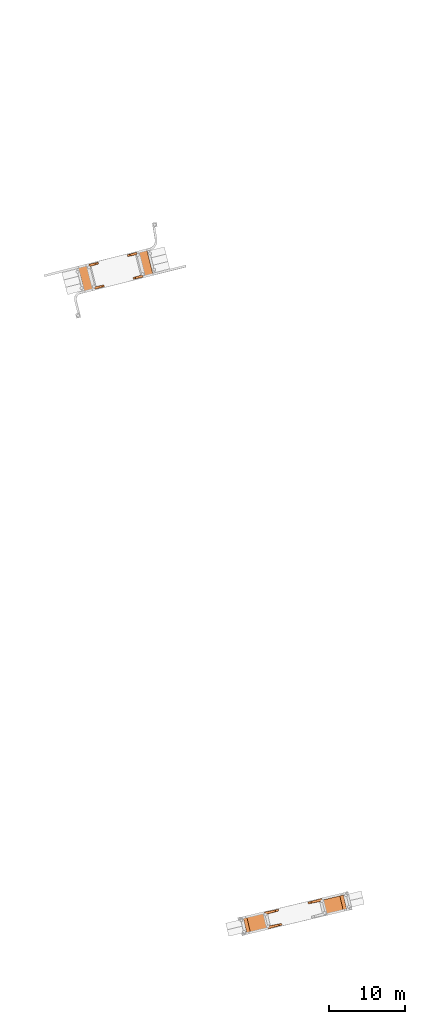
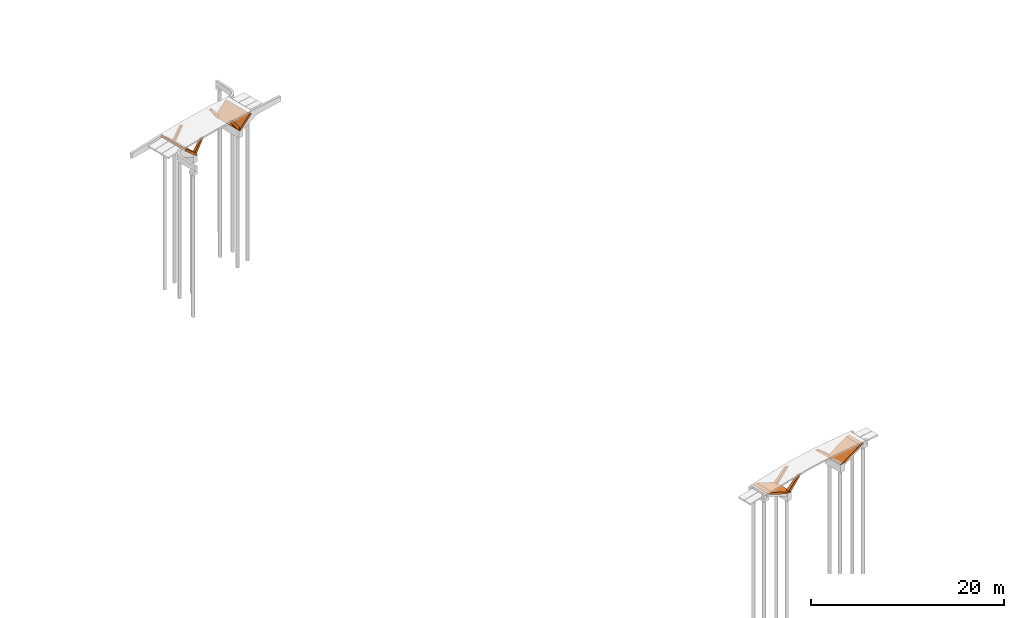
# One storey, part 10 of 15: 11 proxies.
"""IFC2X3 building model written with IfcOpenShell, lengths in millimetres."""

from ifc_helpers import new_model, entity, si_unit, converted_unit, derived_unit, direction, frame, frame_2d, origin, place, context, subcontext, project, spatial, polyline, rectangle, outline, extrude, faceted_brep, source, transform, mapped, material, type_object, type_shapes, element, save


model = new_model("IFC2X3")

# Units and contexts
model_context = context("Model", 3, precision=0.01, world=origin(), true_north=direction((6.12303176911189e-17, 1.0)))
body_context = subcontext(model_context, "Body", "Model", "MODEL_VIEW")
ifc_project = project(units=[si_unit("LENGTHUNIT", "METRE", prefix="MILLI"), si_unit("AREAUNIT", "SQUARE_METRE"), si_unit("VOLUMEUNIT", "CUBIC_METRE"), converted_unit("PLANEANGLEUNIT", "DEGREE", entity("IfcRatioMeasure", 0.0174532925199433), si_unit("PLANEANGLEUNIT", "RADIAN"), dimensions=[0, 0, 0, 0, 0, 0, 0]), si_unit("MASSUNIT", "GRAM", prefix="KILO"), derived_unit("MASSDENSITYUNIT", [(si_unit("MASSUNIT", "GRAM", prefix="KILO"), 1), (si_unit("LENGTHUNIT", "METRE"), -3)]), si_unit("TIMEUNIT", "SECOND"), si_unit("FREQUENCYUNIT", "HERTZ"), si_unit("THERMODYNAMICTEMPERATUREUNIT", "DEGREE_CELSIUS"), derived_unit("THERMALTRANSMITTANCEUNIT", [(si_unit("MASSUNIT", "GRAM", prefix="KILO"), 1), (si_unit("THERMODYNAMICTEMPERATUREUNIT", "KELVIN"), -1), (si_unit("TIMEUNIT", "SECOND"), -3)]), derived_unit("VOLUMETRICFLOWRATEUNIT", [(si_unit("LENGTHUNIT", "METRE"), 3), (si_unit("TIMEUNIT", "SECOND"), -1)]), si_unit("ELECTRICCURRENTUNIT", "AMPERE"), si_unit("ELECTRICVOLTAGEUNIT", "VOLT"), si_unit("POWERUNIT", "WATT"), si_unit("FORCEUNIT", "NEWTON", prefix="KILO"), si_unit("ILLUMINANCEUNIT", "LUX"), si_unit("LUMINOUSFLUXUNIT", "LUMEN"), si_unit("LUMINOUSINTENSITYUNIT", "CANDELA"), derived_unit("USERDEFINED", [(si_unit("MASSUNIT", "GRAM", prefix="KILO"), -1), (si_unit("LENGTHUNIT", "METRE"), -2), (si_unit("TIMEUNIT", "SECOND"), 3), (si_unit("LUMINOUSFLUXUNIT", "LUMEN"), 1)]), derived_unit("LINEARVELOCITYUNIT", [(si_unit("LENGTHUNIT", "METRE"), 1), (si_unit("TIMEUNIT", "SECOND"), -1)]), si_unit("PRESSUREUNIT", "PASCAL"), derived_unit("USERDEFINED", [(si_unit("LENGTHUNIT", "METRE"), -2), (si_unit("MASSUNIT", "GRAM", prefix="KILO"), 1), (si_unit("TIMEUNIT", "SECOND"), -2)])], contexts=[model_context])

# Site, building, storey
site_placement = place(None, origin())
site = spatial("IfcSite", under=ifc_project, at=site_placement, Name="Bruggen Achterburggracht Machinesloot", CompositionType="ELEMENT")
building_placement = place(site_placement, origin())
building = spatial("IfcBuilding", under=site, at=building_placement, Name="Bruggen Achterburggracht Machinesloot", CompositionType="ELEMENT")
storey_placement = place(building_placement, origin())
storey = spatial("IfcBuildingStorey", under=building, at=storey_placement, Name="00 begane grond", CompositionType="ELEMENT", Elevation=2.70716782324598e-13)

# Proxies
ifc_material = material(Name="00_PBT_MAT_beton t.p.g.")
building_element_proxy_type_1 = type_object("IfcBuildingElementProxyType", Name="kolom brug 3 .2", PredefinedType="NOTDEFINED", material=ifc_material)
shared_shape_1 = source(origin(), body_context, "Body", "Brep", [
    faceted_brep([(378.976737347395, 335.652016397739, 1440.50025541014), (190.303856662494, 286.745148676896, 1449.46661222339), (248.304842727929, 42.8932685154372, 1449.46661222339), (438.792346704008, 84.1709676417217, 1440.50025541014), (1.59527223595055, 237.843009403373, 1457.66925883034), (57.7875874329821, 1.59527223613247, 1457.66925883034), (1885.67997704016, 375.725360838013, 158.233292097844), (1538.98795205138, 297.439134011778, 0.0), (1457.37329578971, 640.569289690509, 0.0), (1802.1853051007, 726.759612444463, 158.233292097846)], [[[0, 1, 2, 3]], [[2, 1, 4, 5]], [[6, 7, 8, 9]], [[8, 4, 1, 0, 9]], [[6, 3, 2, 5, 7]], [[7, 5, 4, 8]], [[9, 0, 3, 6]]]),
])
type_shapes(building_element_proxy_type_1, [shared_shape_1])
proxy_1_placement = place(storey_placement, frame((-27586.3317633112, -44523.719479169, -1347.69055858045)))
element("IfcBuildingElementProxy", 1, at=proxy_1_placement, inside=storey, type_object=building_element_proxy_type_1, material=ifc_material, Name="kolom brug 3 .1:kolom brug 3 .2", ObjectType="kolom brug 3 .1:kolom brug 3 .2", context=body_context, shape_type="MappedRepresentation", body=[
    mapped(shared_shape_1, transform((0.0, 0.0, 0.0), scale=1.0)),
])
building_element_proxy_type_2 = type_object("IfcBuildingElementProxyType", Name="wand brug 3", PredefinedType="NOTDEFINED", material=ifc_material)
shared_shape_2 = source(origin(), body_context, "Body", "Brep", [
    faceted_brep([(3622.53916239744, 747.196671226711, 1227.1185303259), (3644.05681972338, 752.314718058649, 1177.44078765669), (3158.10671274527, 2795.38079830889, 1177.4407876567), (3136.58905541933, 2790.26275147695, 1227.1185303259), (487.82861127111, 1.5952722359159, 6.65309988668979), (3154.64024643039, 635.905347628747, 1227.11853032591), (2668.69134127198, 2678.96637510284, 1227.1185303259), (1.5952722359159, 2044.55218271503, 6.51917217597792), (244.56570284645, 1023.03857842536, 6.51917217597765), (1071.2651666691, 140.367610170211, 0.00356979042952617), (585.315177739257, 2183.39854434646, 0.0), (487.82861127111, 1.5952722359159, 6.51917217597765), (828.050363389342, 82.5181549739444, 6.51917217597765), (828.050363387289, 82.5181549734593, 66.5191721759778), (1071.26516666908, 140.367610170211, 66.5191721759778), (828.050235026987, 82.5186946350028, 6.51917217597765), (812.557750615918, 147.652197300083, 6.51917217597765), (727.84204633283, 503.813959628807, 6.51917217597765), (342.100991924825, 2125.54649320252, 6.51917217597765), (342.100925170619, 2125.54677385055, 66.5191721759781), (728.087680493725, 502.781264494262, 66.5191721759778), (812.312116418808, 148.684892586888, 66.5191721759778), (828.050235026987, 82.5186946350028, 66.5191721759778), (585.315103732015, 2183.39885548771, 66.5191721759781), (1071.26481743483, 140.369078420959, 66.5191721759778)], [[[0, 1, 2, 3]], [[4, 5, 6, 7, 8]], [[1, 9, 10, 2]], [[1, 0, 5, 11, 12, 13, 14, 9]], [[5, 0, 3, 6]], [[13, 15, 16, 17, 18, 19, 20, 21]], [[12, 4, 8, 7, 18, 17, 16]], [[14, 22, 21, 20, 19, 23]], [[9, 24, 23, 10]], [[3, 2, 10, 23, 19, 18, 7, 6]]]),
])
type_shapes(building_element_proxy_type_2, [shared_shape_2])
proxy_2_placement = place(storey_placement, frame((-26083.2280179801, -46149.0888771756, -1356.51917217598)))
element("IfcBuildingElementProxy", 2, at=proxy_2_placement, inside=storey, type_object=building_element_proxy_type_2, material=ifc_material, Name="wand brug 3:wand brug 3", ObjectType="wand brug 3:wand brug 3", context=body_context, shape_type="MappedRepresentation", body=[
    mapped(shared_shape_2, transform((0.0, 0.0, 0.0), scale=1.0)),
])
building_element_proxy_type_3 = type_object("IfcBuildingElementProxyType", Name="kolom brug 3 .2", PredefinedType="NOTDEFINED", material=ifc_material)
shared_shape_3 = source(origin(), body_context, "Body", "Brep", [
    faceted_brep([(0.0, 351.034270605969, 158.233300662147), (1446.88762460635, 642.588662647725, 1440.5002588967), (1637.37514327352, 683.866364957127, 1449.46661643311), (1827.89241326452, 725.164364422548, 1457.66926364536), (346.692043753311, 429.320501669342, 0.0), (83.4946764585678, 0.0, 158.233300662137), (1506.70323857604, 391.107594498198, 1440.50025889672), (428.306704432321, 86.1903274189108, 0.0), (1884.08473279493, 488.916609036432, 1457.66926364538), (1695.37613381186, 440.014465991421, 1449.46661643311)], [[[0, 1, 2, 3, 4]], [[5, 6, 1, 0]], [[7, 8, 9, 6, 5]], [[4, 3, 8, 7]], [[3, 2, 9, 8]], [[9, 2, 1, 6]], [[5, 0, 4, 7]]]),
])
type_shapes(building_element_proxy_type_3, [shared_shape_3])
proxy_3_placement = place(storey_placement, frame((-33295.7481023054, -45934.6537257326, -1347.69056281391)))
element("IfcBuildingElementProxy", 3, at=proxy_3_placement, inside=storey, type_object=building_element_proxy_type_3, material=ifc_material, Name="kolom brug 3 .4:kolom brug 3 .2", ObjectType="kolom brug 3 .4:kolom brug 3 .2", context=body_context, shape_type="MappedRepresentation", body=[
    mapped(shared_shape_3, transform((0.0, 0.0, 0.0), scale=1.0)),
])
building_element_proxy_type_4 = type_object("IfcBuildingElementProxyType", Name="kolom brug 3 .2", PredefinedType="NOTDEFINED", material=ifc_material)
shared_shape_4 = source(origin(), body_context, "Body", "Brep", [
    faceted_brep([(0.0, 351.03377433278, 158.233076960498), (1446.90404157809, 642.591474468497, 1440.51458431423), (1637.39014873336, 683.868874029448, 1449.48070310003), (1827.90600612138, 725.166570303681, 1457.68312290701), (346.691553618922, 429.319894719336, 0.0), (83.4945584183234, 0.0, 158.233076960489), (1506.71926883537, 391.112032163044, 1440.51458431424), (428.306098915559, 86.1902055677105, 0.0), (1884.09796855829, 488.920316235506, 1457.68312290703), (1695.39076740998, 440.018538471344, 1449.48070310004)], [[[0, 1, 2, 3, 4]], [[5, 6, 1, 0]], [[7, 8, 9, 6, 5]], [[4, 3, 8, 7]], [[8, 3, 2, 9]], [[2, 1, 6, 9]], [[5, 0, 4, 7]]]),
])
type_shapes(building_element_proxy_type_4, [shared_shape_4])
proxy_4_placement = place(storey_placement, frame((-32856.0650691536, -47783.0795329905, -1347.70274814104)))
element("IfcBuildingElementProxy", 4, at=proxy_4_placement, inside=storey, type_object=building_element_proxy_type_4, material=ifc_material, Name="kolom brug 3 .5:kolom brug 3 .2", ObjectType="kolom brug 3 .5:kolom brug 3 .2", context=body_context, shape_type="MappedRepresentation", body=[
    mapped(shared_shape_4, transform((0.0, 0.0, 0.0), scale=1.0)),
])
building_element_proxy_type_5 = type_object("IfcBuildingElementProxyType", Name="wand brug 3", PredefinedType="NOTDEFINED", material=ifc_material)
shared_shape_5 = source(origin(), body_context, "Body", "SweptSolid", [
    extrude(outline(polyline([(-1542.98572804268, -139.297965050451), (1457.69692133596, -139.29796505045), (1138.22796047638, 2.95438873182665), (1113.82152699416, -51.8573436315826), (885.439308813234, 49.8361292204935), (912.496948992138, 110.601915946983), (-1982.3473606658, 110.719949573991), (-1982.34957790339, 56.3408902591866), (-1542.98572804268, -139.297965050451)])), frame((-33756.6208199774, -48088.6674402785, -884.299663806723), z_axis=(-0.231397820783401, 0.972859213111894, 0.0), x_axis=(0.888734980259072, 0.211388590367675, -0.406773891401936)), (0.0, 0.0, 1.0), 2400.00042712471),
])
type_shapes(building_element_proxy_type_5, [shared_shape_5])
proxy_5_placement = place(storey_placement, origin())
element("IfcBuildingElementProxy", 5, at=proxy_5_placement, inside=storey, type_object=building_element_proxy_type_5, material=ifc_material, Name="wand brug 1:wand brug 3", ObjectType="wand brug 1:wand brug 3", context=body_context, shape_type="MappedRepresentation", body=[
    mapped(shared_shape_5, transform((0.0, 0.0, 0.0), scale=1.0)),
])
building_element_proxy_type_6 = type_object("IfcBuildingElementProxyType", Name="Brug 2 wand", PredefinedType="NOTDEFINED", material=ifc_material)
shared_shape_6 = source(origin(), body_context, "Body", "Brep", [
    faceted_brep([(882.045053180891, 0.0, 188.677395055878), (0.0, 3490.27169775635, 188.677395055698), (159.015573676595, 3530.45736588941, 0.0), (232.519328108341, 3239.60139107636, 0.0), (967.556872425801, 331.041642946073, 0.0), (1041.06062685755, 40.1856681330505, 0.0), (884.173945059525, 0.538003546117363, 186.151392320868), (2491.79818466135, 406.809242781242, 1632.00725883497), (2650.81375833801, 446.994910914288, 1443.32986377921), (2577.31000390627, 737.850885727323, 1443.3298637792), (2418.29443022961, 697.665217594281, 1632.00725883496), (2435.40581073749, 392.558027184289, 1581.44497336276), (2361.90205630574, 683.414001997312, 1581.44497336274), (2359.773164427, 682.875998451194, 1579.5361755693), (1551.23186567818, 3882.29172139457, 1579.53617556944), (1551.23186567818, 3882.29172139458, 1248.28292723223), (2359.773164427, 682.875998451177, 1248.28292723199)], [[[0, 1, 2, 3, 4, 5, 6]], [[7, 8, 9, 10]], [[1, 0, 11, 7, 10, 12, 13, 14]], [[2, 1, 14, 15]], [[5, 4, 3, 2, 15, 16, 9, 8]], [[0, 6, 5, 8, 7, 11]], [[16, 13, 12, 10, 9]], [[13, 16, 15, 14]]]),
])
type_shapes(building_element_proxy_type_6, [shared_shape_6])
proxy_6_placement = place(storey_placement, frame((-50256.1582574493, 37332.1612238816, -1538.67739505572)))
element("IfcBuildingElementProxy", 6, at=proxy_6_placement, inside=storey, type_object=building_element_proxy_type_6, material=ifc_material, Name="Brug 2 wand:Brug 2 wand", ObjectType="Brug 2 wand:Brug 2 wand", context=body_context, shape_type="MappedRepresentation", body=[
    mapped(shared_shape_6, transform((0.0, 0.0, 0.0), scale=1.0)),
])
building_element_proxy_type_7 = type_object("IfcBuildingElementProxyType", Name="Brug 2 kolom", PredefinedType="NOTDEFINED", material=ifc_material)
shared_shape_7 = source(origin(), body_context, "Body", "Brep", [
    faceted_brep([(1087.31626344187, 227.519255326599, 0.0), (1010.13732128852, 532.918028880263, 0.0), (1011.55846370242, 533.277173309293, 1.0649811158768), (1088.73740585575, 227.878399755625, 1.06498111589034), (1077.64000115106, 225.384751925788, 14.1448192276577), (1000.60873382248, 530.199172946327, 14.1448192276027)], [[[0, 1, 2, 3]], [[1, 0, 4, 5]], [[2, 1, 5]], [[0, 3, 4]], [[3, 2, 5, 4]]]),
    faceted_brep([(1229.60843192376, 587.523890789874, 223.211496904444), (310.648550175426, 326.72790178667, 1490.33784089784), (373.851031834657, 76.6342901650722, 1490.33784089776), (1306.37982119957, 283.737812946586, 223.211496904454), (218.499595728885, 39.1171745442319, 1493.86775683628), (63.1437475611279, 1.59527223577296, 1497.1416296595), (1075.99920298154, 225.022805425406, 16.5433479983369), (1.5952722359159, 245.143944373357, 1497.14162965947), (998.992976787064, 529.738138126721, 16.5433479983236), (156.124989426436, 285.934865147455, 1493.86775683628)], [[[0, 1, 2, 3]], [[3, 2, 4, 5, 6]], [[6, 5, 7, 8]], [[8, 7, 9, 1, 0]], [[3, 6, 8, 0]], [[7, 5, 4, 9]], [[4, 2, 1, 9]]]),
])
type_shapes(building_element_proxy_type_7, [shared_shape_7])
proxy_7_placement = place(storey_placement, frame((-51227.2770180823, 40183.3386681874, -1366.34255068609)))
element("IfcBuildingElementProxy", 7, at=proxy_7_placement, inside=storey, type_object=building_element_proxy_type_7, material=ifc_material, Name="Brug 2 kolom1:Brug 2 kolom", ObjectType="Brug 2 kolom1:Brug 2 kolom", context=body_context, shape_type="MappedRepresentation", body=[
    mapped(shared_shape_7, transform((0.0, 0.0, 0.0), scale=1.0)),
])
building_element_proxy_type_8 = type_object("IfcBuildingElementProxyType", Name="Brug 2 wand", PredefinedType="NOTDEFINED", material=ifc_material)
shared_shape_8 = source(origin(), body_context, "Body", "SweptSolid", [
    extrude(rectangle(XDim=250.000000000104, YDim=2200.0, at=frame_2d((-82.9511501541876, 4.9382720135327e-12), x_axis=(0.0, 1.0))), frame((-56136.3129047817, 35623.2499095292, -668.252914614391), z_axis=(-0.24501251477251, 0.969519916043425, 0.0), x_axis=(-0.731705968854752, -0.18491329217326, 0.656059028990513)), (0.0, 0.0, 1.0), 3599.99999999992),
])
type_shapes(building_element_proxy_type_8, [shared_shape_8])
proxy_8_placement = place(storey_placement, origin())
element("IfcBuildingElementProxy", 8, at=proxy_8_placement, inside=storey, type_object=building_element_proxy_type_8, material=ifc_material, Name="Brug 2 wand1:Brug 2 wand", ObjectType="Brug 2 wand1:Brug 2 wand", context=body_context, shape_type="MappedRepresentation", body=[
    mapped(shared_shape_8, transform((0.0, 0.0, 0.0), scale=1.0)),
])
building_element_proxy_type_9 = type_object("IfcBuildingElementProxyType", Name="Brug 2 kolom", PredefinedType="NOTDEFINED", material=ifc_material)
shared_shape_9 = source(origin(), body_context, "Body", "Brep", [
    faceted_brep([(219.063557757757, 360.004635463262, 0.0), (296.242499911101, 54.6058619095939, 0.0), (294.821357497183, 54.2467174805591, 1.0649811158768), (217.642415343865, 359.645491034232, 1.0649811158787), (305.77108737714, 57.3247178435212, 14.1448192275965), (228.739820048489, 362.13913886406, 14.1448192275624)], [[[0, 1, 2, 3]], [[2, 1, 4]], [[1, 0, 5, 4]], [[3, 2, 4, 5]], [[0, 3, 5]]]),
    faceted_brep([(76.7713892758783, 0.0, 223.211496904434), (995.731271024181, 260.795989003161, 1490.33784089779), (932.528789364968, 510.889600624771, 1490.33784089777), (0.0, 303.786077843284, 223.211496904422), (1087.88022547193, 548.406716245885, 1493.86775683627), (1243.23607363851, 585.928618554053, 1497.14162965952), (230.380618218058, 362.501085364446, 16.5433479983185), (307.386844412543, 57.7857526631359, 16.5433479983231), (1304.78454896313, 342.379946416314, 1497.14162965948), (1150.25483177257, 301.589025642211, 1493.86775683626)], [[[0, 1, 2, 3]], [[3, 2, 4, 5, 6]], [[0, 3, 6, 7]], [[7, 8, 9, 1, 0]], [[6, 5, 8, 7]], [[2, 1, 9, 4]], [[9, 8, 5, 4]]]),
])
type_shapes(building_element_proxy_type_9, [shared_shape_9])
proxy_9_placement = place(storey_placement, frame((-56276.2320562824, 38880.3874410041, -1366.34255068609)))
element("IfcBuildingElementProxy", 9, at=proxy_9_placement, inside=storey, type_object=building_element_proxy_type_9, material=ifc_material, Name="Brug 2 kolom2:Brug 2 kolom", ObjectType="Brug 2 kolom2:Brug 2 kolom", context=body_context, shape_type="MappedRepresentation", body=[
    mapped(shared_shape_9, transform((0.0, 0.0, 0.0), scale=1.0)),
])
building_element_proxy_type_10 = type_object("IfcBuildingElementProxyType", Name="Brug 2 kolom", PredefinedType="NOTDEFINED", material=ifc_material)
shared_shape_10 = source(origin(), body_context, "Body", "Brep", [
    faceted_brep([(1087.31626344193, 227.519255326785, 0.0), (1010.13732128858, 532.918028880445, 0.0), (1011.5584637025, 533.277173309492, 1.06498111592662), (1088.73740585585, 227.878399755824, 1.06498111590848), (1000.60873382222, 530.199172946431, 14.1448192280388), (1077.64000115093, 225.384751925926, 14.1448192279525)], [[[0, 1, 2, 3]], [[2, 1, 4]], [[1, 0, 5, 4]], [[0, 3, 5]], [[3, 2, 4, 5]]]),
    faceted_brep([(1229.60843192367, 587.523890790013, 223.211496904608), (310.648550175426, 326.727901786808, 1490.33784089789), (373.851031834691, 76.6342901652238, 1490.33784089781), (1306.37982119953, 283.737812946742, 223.211496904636), (218.49959572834, 39.1171745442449, 1493.86775683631), (63.1437475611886, 1.59527223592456, 1497.14162965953), (1075.99920298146, 225.022805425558, 16.5433479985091), (998.992976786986, 529.738138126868, 16.5433479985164), (1.59527223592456, 245.143944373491, 1497.14162965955), (156.124989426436, 285.934865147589, 1493.86775683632)], [[[0, 1, 2, 3]], [[3, 2, 4, 5, 6]], [[7, 8, 9, 1, 0]], [[6, 5, 8, 7]], [[0, 3, 6, 7]], [[5, 4, 9, 8]], [[9, 4, 2, 1]]]),
])
type_shapes(building_element_proxy_type_10, [shared_shape_10])
proxy_10_placement = place(storey_placement, frame((-50477.5387228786, 37216.6077250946, -1366.34255068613)))
element("IfcBuildingElementProxy", 10, at=proxy_10_placement, inside=storey, type_object=building_element_proxy_type_10, material=ifc_material, Name="Brug 2 kolom3:Brug 2 kolom", ObjectType="Brug 2 kolom3:Brug 2 kolom", context=body_context, shape_type="MappedRepresentation", body=[
    mapped(shared_shape_10, transform((0.0, 0.0, 0.0), scale=1.0)),
])
building_element_proxy_type_11 = type_object("IfcBuildingElementProxyType", Name="Brug 2 kolom", PredefinedType="NOTDEFINED", material=ifc_material)
shared_shape_11 = source(origin(), body_context, "Body", "Brep", [
    faceted_brep([(219.063557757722, 360.004635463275, 0.0), (296.242499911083, 54.6058619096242, 0.0), (294.821357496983, 54.2467174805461, 1.0649811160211), (217.642415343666, 359.645491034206, 1.06498111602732), (228.739820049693, 362.139138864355, 14.1448192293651), (305.771087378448, 57.3247178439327, 14.1448192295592)], [[[0, 1, 2, 3]], [[1, 0, 4, 5]], [[2, 1, 5]], [[3, 2, 5, 4]], [[0, 3, 4]]]),
    faceted_brep([(76.7713892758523, 0.0, 223.211496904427), (995.731271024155, 260.795989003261, 1490.33784089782), (932.528789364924, 510.889600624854, 1490.33784089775), (0.0, 303.786077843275, 223.211496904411), (1087.88022547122, 548.406716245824, 1493.86775683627), (1243.23607363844, 585.928618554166, 1497.1416296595), (230.38061821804, 362.501085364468, 16.5433479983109), (307.386844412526, 57.7857526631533, 16.5433479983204), (1304.78454896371, 342.379946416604, 1497.14162965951), (1150.2548317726, 301.589025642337, 1493.86775683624)], [[[0, 1, 2, 3]], [[3, 2, 4, 5, 6]], [[3, 6, 7, 0]], [[6, 5, 8, 7]], [[7, 8, 9, 1, 0]], [[1, 9, 4, 2]], [[4, 9, 8, 5]]]),
])
type_shapes(building_element_proxy_type_11, [shared_shape_11])
proxy_11_placement = place(storey_placement, frame((-55526.4937610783, 35913.6564979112, -1366.34255068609)))
element("IfcBuildingElementProxy", 11, at=proxy_11_placement, inside=storey, type_object=building_element_proxy_type_11, material=ifc_material, Name="Brug 2 kolom4:Brug 2 kolom", ObjectType="Brug 2 kolom4:Brug 2 kolom", context=body_context, shape_type="MappedRepresentation", body=[
    mapped(shared_shape_11, transform((0.0, 0.0, 0.0), scale=1.0)),
])

save(model, "model.ifc")
